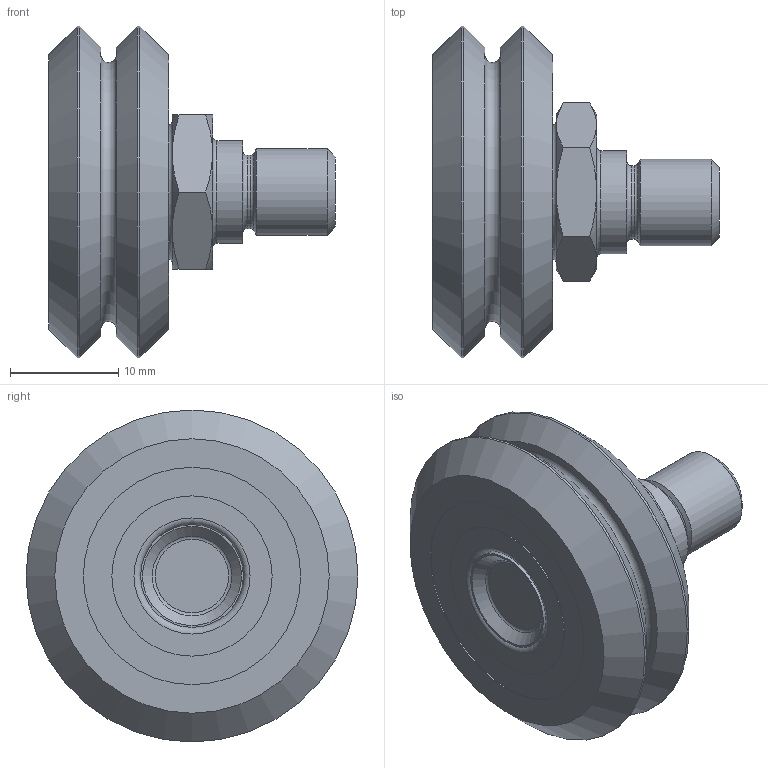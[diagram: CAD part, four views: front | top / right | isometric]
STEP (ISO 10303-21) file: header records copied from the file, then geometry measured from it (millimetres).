
FILE_DESCRIPTION( ( 'STEP AP214' ), '1' );
FILE_NAME( 'p:/temp/worker_18/temp/app_49_02019012316070923251347192d056f_000000_00_00_000000/format_0/SWSE2XA.stp', '2019-01-23T15:07:10', ( '' ), ( '' ), ' ', 'PARTsolutions', ' ' );
FILE_SCHEMA( ( 'AUTOMOTIVE_DESIGN { 1 0 10303 214 1 1 1 1 }' ) );
Length unit declared in the file: inch
Products named in the file (3): SWSE2XA; _SWSE2; _W2X
Assembly tree (2 placements, depth 2):
  SWSE2XA
    _SWSE2
    _W2X
Bounding box: 26.57 x 30.73 x 30.73 mm (x, y, z)
Volume: 8034 mm3; surface area: 3948.7 mm2
Topology: 2 solids, 2 shells, 68 faces, 121 edges, 72 vertices
Faces by surface type: plane 25, cone 19, cylinder 15, torus 9
Full cylindrical faces by diameter (mm): 6.782 x1, 8 x1, 9.515 x1, 9.525 x2, 14.605 x2, 14.834 x2, 20.117 x2, 20.345 x2, 30.734 x2
Entity records: 2172 total; most frequent: CARTESIAN_POINT 369, DIRECTION 268, ORIENTED_EDGE 180, AXIS2_PLACEMENT_3D 131, EDGE_LOOP 116, FACE_OUTER_BOUND 92, EDGE_CURVE 90, VERTEX_POINT 72
